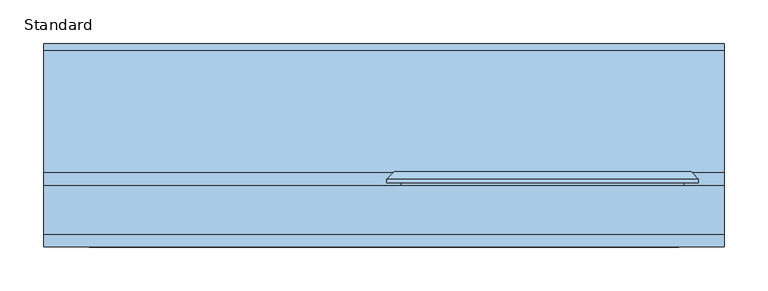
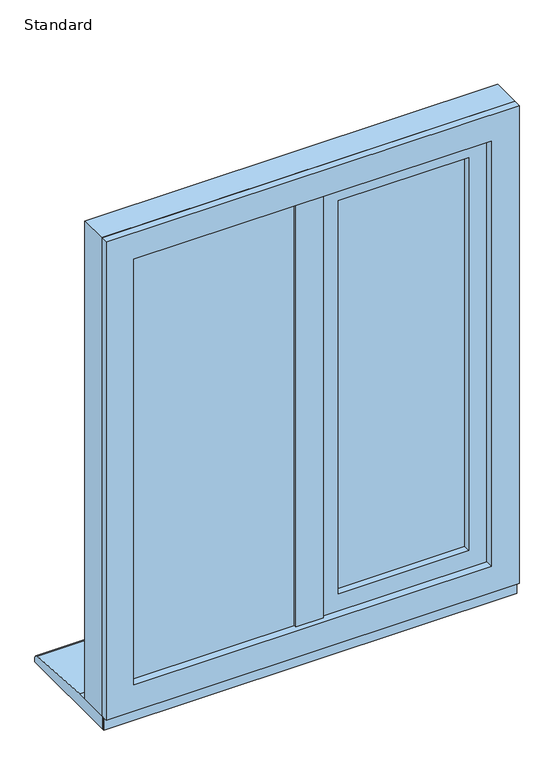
"""IFC4 building model written with IfcOpenShell, lengths in millimetres: window geometry, SMARTS_Alitherm600 : Standard."""

from ifc_helpers import new_model, si_unit, point, frame, frame_2d, origin, place, context, project, spatial, polyline, circle_curve, trimmed, segment, composite_curve, outline, extrude, faceted_brep, source, transform, mapped, element, save


def standard_84fab25d(model_context):
    return source(origin(), model_context, "Body", "SolidModel", [
        extrude(outline(polyline([(-9.4, 102.8298432), (9.4, 102.8298432), (9.4, 47.2458572), (-9.4, 47.2458572), (-9.4, 102.8298432)])), frame((0.0, 0.0, 670.8979117), z_axis=(0.0, 0.0, 1.0), x_axis=(1.0, 0.0, 0.0)), (0.0, 0.0, 1.0), 883.2041766),
        extrude(outline(polyline([(-25.9020883, 47.2458572), (25.9020883, 47.2458572), (25.9020883, 43.2798432), (-25.9020883, 43.2798432), (-25.9020883, 47.2458572)])), frame((0.0, 0.0, 687.4), z_axis=(0.0, 0.0, 1.0), x_axis=(1.0, 0.0, 0.0)), (0.0, 0.0, 1.0), 850.2),
        extrude(outline(polyline([(-352.6, 77.7798432), (-11.0, 77.7798432), (-11.0, 73.7798432), (-352.6, 73.7798432), (-352.6, 77.7798432)])), frame((0.0, 0.0, 672.4), z_axis=(0.0, 0.0, 1.0), x_axis=(1.0, 0.0, 0.0)), (0.0, 0.0, 1.0), 880.2),
        extrude(outline(polyline([(-352.6, 57.7798432), (-11.0, 57.7798432), (-11.0, 53.7798432), (-352.6, 53.7798432), (-352.6, 57.7798432)])), frame((0.0, 0.0, 672.4), z_axis=(0.0, 0.0, 1.0), x_axis=(1.0, 0.0, 0.0)), (0.0, 0.0, 1.0), 880.2),
        extrude(outline(polyline([(1552.6, -352.6), (672.4, -352.6), (672.4, -11.0), (1552.6, -11.0), (1552.6, -352.6)]), holes=[polyline([(1542.6, -21.0), (682.4, -21.0), (682.4, -342.6), (1542.6, -342.6), (1542.6, -21.0)])]), frame((0.0, 57.7798432, 0.0), z_axis=(0.0, 1.0, 0.0), x_axis=(0.0, 0.0, 1.0)), (0.0, 0.0, 1.0), 16.0),
        faceted_brep([(-349.4160653, 102.7798432, 1549.4160653), (-337.2339746, 81.6798432, 1537.2339746), (-337.2339746, 81.6798432, 687.7660254), (-349.4160653, 102.7798432, 675.5839347), (-26.3660254, 81.6798432, 687.7660254), (-14.1839347, 102.7798432, 675.5839347), (-26.3660254, 81.6798432, 1537.2339746), (-14.1839347, 102.7798432, 1549.4160653), (-9.5, 81.6798432, 1554.1), (-9.5, 102.7798432, 1554.1), (-354.1, 102.7798432, 1554.1), (-354.1, 81.6798432, 1554.1), (-354.1, 102.7798432, 670.9), (-354.1, 81.6798432, 670.9), (-9.5, 102.7798432, 670.9), (-9.5, 81.6798432, 670.9)], [[[0, 1, 2, 3]], [[3, 2, 4, 5]], [[5, 4, 6, 7]], [[7, 6, 1, 0]], [[8, 9, 10, 11]], [[11, 10, 12, 13]], [[13, 12, 14, 15]], [[9, 14, 12, 10], [0, 3, 5, 7]], [[15, 14, 9, 8]], [[11, 13, 15, 8], [6, 4, 2, 1]]]),
        extrude(outline(polyline([(1590.0, 390.0), (1590.0, -390.0), (635.0, -390.0), (635.0, 390.0), (1590.0, 390.0)]), holes=[polyline([(670.85, 354.15), (670.85, -354.15), (1554.15, -354.15), (1554.15, 354.15), (670.85, 354.15)])]), frame((0.0, 47.2798427, 0.0), z_axis=(0.0, 1.0, 0.0), x_axis=(0.0, 0.0, 1.0)), (0.0, 0.0, 1.0), 55.5500006),
        extrude(outline(polyline([(1590.0, 390.0), (1590.0, -390.0), (635.0, -390.0), (635.0, 390.0), (1590.0, 390.0)]), holes=[polyline([(687.35, 337.65), (687.35, -337.65), (1537.65, -337.65), (1537.65, 337.65), (687.35, 337.65)])]), frame((0.0, 32.8298432, 0.0), z_axis=(0.0, 1.0, 0.0), x_axis=(0.0, 0.0, 1.0)), (0.0, 0.0, 1.0), 14.4499994),
        extrude(outline(polyline([(1516.6, 47.0), (708.4, 47.0), (708.4, 316.6), (1516.6, 316.6), (1516.6, 47.0)]), holes=[polyline([(1506.6, 306.6), (718.4, 306.6), (718.4, 57.0), (1506.6, 57.0), (1506.6, 306.6)])]), frame((0.0, 72.3211351, 0.0), z_axis=(0.0, 1.0, 0.0), x_axis=(0.0, 0.0, 1.0)), (0.0, 0.0, 1.0), 16.0),
        extrude(outline(polyline([(47.0, 92.3211351), (316.6, 92.3211351), (316.6, 88.3211351), (47.0, 88.3211351), (47.0, 92.3211351)])), frame((0.0, 0.0, 708.4), z_axis=(0.0, 0.0, 1.0), x_axis=(1.0, 0.0, 0.0)), (0.0, 0.0, 1.0), 808.2),
        extrude(outline(polyline([(47.0, 72.3211351), (316.6, 72.3211351), (316.6, 68.3211351), (47.0, 68.3211351), (47.0, 72.3211351)])), frame((0.0, 0.0, 708.4), z_axis=(0.0, 0.0, 1.0), x_axis=(1.0, 0.0, 0.0)), (0.0, 0.0, 1.0), 808.2),
        faceted_brep([(316.9221147, 118.8818325, 1516.9221147), (304.740024, 97.7818325, 1504.740024), (58.859976, 97.7818325, 1504.740024), (46.6778853, 118.8818325, 1516.9221147), (321.6060494, 97.7818325, 1521.6060494), (321.6060494, 118.8818325, 1521.6060494), (41.9939506, 118.8818325, 1521.6060494), (41.9939506, 97.7818325, 1521.6060494), (58.859976, 97.7818325, 720.259976), (46.6778853, 118.8818325, 708.0778853), (41.9939506, 118.8818325, 703.3939506), (41.9939506, 97.7818325, 703.3939506), (304.740024, 97.7818325, 720.259976), (316.9221147, 118.8818325, 708.0778853), (321.6060494, 118.8818325, 703.3939506), (321.6060494, 97.7818325, 703.3939506)], [[[0, 1, 2, 3]], [[4, 5, 6, 7]], [[3, 2, 8, 9]], [[7, 6, 10, 11]], [[9, 8, 12, 13]], [[11, 10, 14, 15]], [[13, 12, 1, 0]], [[5, 14, 10, 6], [3, 9, 13, 0]], [[15, 14, 5, 4]], [[7, 11, 15, 4], [1, 12, 8, 2]]]),
        extrude(outline(polyline([(681.552908, 20.152908), (681.552908, 343.447092), (1543.447092, 343.447092), (1543.447092, 20.152908), (681.552908, 20.152908)]), holes=[polyline([(1505.1, 58.5), (1505.1, 305.1), (719.9, 305.1), (719.9, 58.5), (1505.1, 58.5)])]), frame((0.0, 50.2798432, 0.0), z_axis=(0.0, 1.0, 0.0), x_axis=(0.0, 0.0, 1.0)), (0.0, 0.0, 1.0), 13.0853156),
        faceted_brep([(41.9939506, 118.8818325, 1521.6060494), (41.9939506, 63.3651588, 1521.6060494), (41.9939506, 63.3651588, 703.3939506), (41.9939506, 118.8818325, 703.3939506), (321.6060494, 63.3651588, 703.3939506), (321.6060494, 118.8818325, 703.3939506), (321.6060494, 63.3651588, 1521.6060494), (321.6060494, 118.8818325, 1521.6060494), (3.2641012, 106.2818325, 1560.3358988), (3.2641012, 110.3519831, 1560.3358988), (3.2641012, 110.3519831, 664.6641012), (3.2641012, 106.2818325, 664.6641012), (360.3358988, 110.3519831, 664.6641012), (360.3358988, 106.2818325, 664.6641012), (360.3358988, 110.3519831, 1560.3358988), (360.3358988, 106.2818325, 1560.3358988), (19.8532343, 106.2818325, 1543.7467657), (343.7467657, 106.2818325, 1543.7467657), (343.7467657, 106.2818325, 681.2532343), (19.8532343, 106.2818325, 681.2532343), (11.7939506, 118.8818325, 1551.8060494), (351.8060494, 118.8818325, 1551.8060494), (351.8060494, 118.8818325, 673.1939506), (11.7939506, 118.8818325, 673.1939506), (19.8532343, 63.3651588, 1543.7467657), (19.8532343, 63.3651588, 681.2532343), (343.7467657, 63.3651588, 681.2532343), (343.7467657, 63.3651588, 1543.7467657)], [[[0, 1, 2, 3]], [[3, 2, 4, 5]], [[5, 4, 6, 7]], [[7, 6, 1, 0]], [[8, 9, 10, 11]], [[11, 10, 12, 13]], [[13, 12, 14, 15]], [[11, 13, 15, 8], [16, 17, 18, 19]], [[15, 14, 9, 8]], [[20, 21, 22, 23], [3, 5, 7, 0]], [[24, 16, 19, 25]], [[25, 19, 18, 26]], [[26, 18, 17, 27]], [[25, 26, 27, 24], [1, 6, 4, 2]], [[27, 17, 16, 24]], [[9, 20, 23, 10]], [[10, 23, 22, 12]], [[12, 22, 21, 14]], [[14, 21, 20, 9]]]),
        extrude(outline(polyline([(390.0, 43.2798432), (390.0, 40.7798432), (-390.0, 40.7798432), (-390.0, 43.2798432), (390.0, 43.2798432)])), frame((0.0, 0.0, 610.0), z_axis=(0.0, 0.0, 1.0), x_axis=(1.0, 0.0, 0.0)), (0.0, 0.0, 1.0), 31.0),
        extrude(outline(composite_curve([segment(polyline([(265.7798432, 610.0), (43.2798432, 610.0), (43.2798432, 635.0), (118.7798432, 635.0), (258.4770891, 625.9276664)]), True, "CONTINUOUS"), segment(trimmed(circle_curve(frame_2d((257.7798432, 617.9581088)), 8.0), [point((258.4770891, 625.9276664))], [point((265.7798432, 617.9581088))], False, "CARTESIAN"), True, "CONTINUOUS"), segment(polyline([(265.7798432, 617.9581088), (265.7798432, 610.0)]), True, "CONTINUOUS")], self_intersect=False)), frame((-390.0, 0.0, 0.0), z_axis=(1.0, 0.0, 0.0), x_axis=(0.0, 1.0, 0.0)), (0.0, 0.0, 1.0), 780.0),
    ])


if __name__ == "__main__":
    model = new_model("IFC4")
    model_context = context("Model", 3, world=origin())
    ifc_project = project(units=[si_unit("LENGTHUNIT", "METRE", prefix="MILLI")], contexts=[model_context])
    site = spatial("IfcSite", under=ifc_project)
    building = spatial("IfcBuilding", under=site)
    placement = place(None, origin())
    standard_shape = standard_84fab25d(model_context)
    element("IfcWindow", 1, ObjectType="SMARTS_Alitherm600 : Standard", at=placement, inside=building, context=model_context, shape_type="MappedRepresentation", body=[
        mapped(standard_shape, transform((0.0, 0.0, 0.0), x_axis=(1.0, 0.0, 0.0), y_axis=(0.0, 1.0, 0.0), z_axis=(0.0, 0.0, 1.0))),
    ])
    save(model, "model.ifc")
